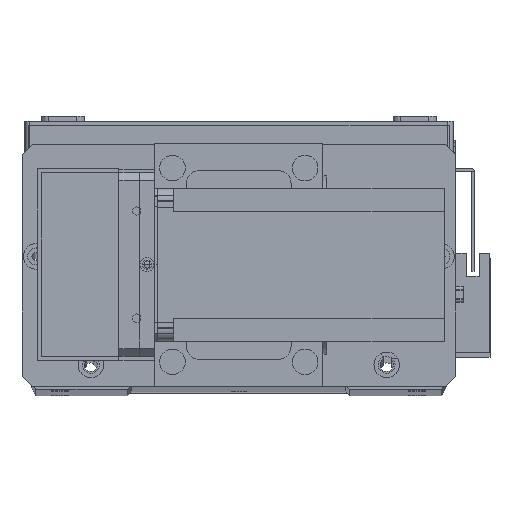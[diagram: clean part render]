
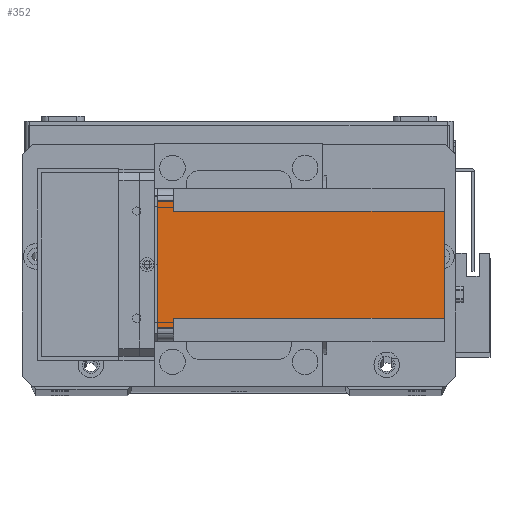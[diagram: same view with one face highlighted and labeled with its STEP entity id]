
A CAD part, top view. The second image highlights one B-rep face of the part: STEP entity #352.
In plain terms, the highlighted planar face has unit normal (0, 0, 1) as drawn and (-1, 0, 0) by its records, which use the part's own axes.
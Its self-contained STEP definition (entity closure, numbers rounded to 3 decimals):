
#3 = ORIENTED_EDGE ( 'NONE', *, *, #9786, .F. ) ;
#352 = ADVANCED_FACE ( 'NONE', ( #5899 ), #12835, .T. ) ;
#423 = VECTOR ( 'NONE', #6225, 1000. ) ;
#557 = ORIENTED_EDGE ( 'NONE', *, *, #19694, .F. ) ;
#696 = LINE ( 'NONE', #7753, #26508 ) ;
#1292 = CARTESIAN_POINT ( 'NONE',  ( 0., 0., -112.5 ) ) ;
#1985 = ORIENTED_EDGE ( 'NONE', *, *, #13897, .T. ) ;
#2157 = VERTEX_POINT ( 'NONE', #12614 ) ;
#2536 = EDGE_CURVE ( 'NONE', #22568, #9418, #6943, .T. ) ;
#3520 = VERTEX_POINT ( 'NONE', #15010 ) ;
#4768 = CARTESIAN_POINT ( 'NONE',  ( 0., 9., -112.5 ) ) ;
#5899 = FACE_OUTER_BOUND ( 'NONE', #17599, .T. ) ;
#6225 = DIRECTION ( 'NONE',  ( 0., -1., 0. ) ) ;
#6307 = LINE ( 'NONE', #29051, #18835 ) ;
#6943 = LINE ( 'NONE', #26818, #14396 ) ;
#7753 = CARTESIAN_POINT ( 'NONE',  ( 0., 55., -112.5 ) ) ;
#8214 = DIRECTION ( 'NONE',  ( 0., 1., 0. ) ) ;
#8484 = LINE ( 'NONE', #29229, #27700 ) ;
#8746 = ORIENTED_EDGE ( 'NONE', *, *, #15550, .T. ) ;
#9418 = VERTEX_POINT ( 'NONE', #19275 ) ;
#9786 = EDGE_CURVE ( 'NONE', #28102, #2157, #27579, .T. ) ;
#10908 = CARTESIAN_POINT ( 'NONE',  ( 0., 9., -112.5 ) ) ;
#11187 = EDGE_CURVE ( 'NONE', #21415, #12535, #18451, .T. ) ;
#11472 = ORIENTED_EDGE ( 'NONE', *, *, #11187, .F. ) ;
#12535 = VERTEX_POINT ( 'NONE', #10908 ) ;
#12614 = CARTESIAN_POINT ( 'NONE',  ( 0., 55., -6.5 ) ) ;
#12719 = DIRECTION ( 'NONE',  ( -1., 0., 0. ) ) ;
#12835 = PLANE ( 'NONE',  #19379 ) ;
#13118 = LINE ( 'NONE', #15152, #25671 ) ;
#13897 = EDGE_CURVE ( 'NONE', #26138, #12535, #26997, .T. ) ;
#14396 = VECTOR ( 'NONE', #19344, 1000. ) ;
#15010 = CARTESIAN_POINT ( 'NONE',  ( 0., 55., 0. ) ) ;
#15152 = CARTESIAN_POINT ( 'NONE',  ( 0., 51., -112.5 ) ) ;
#15265 = EDGE_CURVE ( 'NONE', #22568, #21415, #8484, .T. ) ;
#15392 = CARTESIAN_POINT ( 'NONE',  ( 0., 51., -112.5 ) ) ;
#15550 = EDGE_CURVE ( 'NONE', #3520, #2157, #696, .T. ) ;
#16749 = DIRECTION ( 'NONE',  ( 0., 1., 0. ) ) ;
#17599 = EDGE_LOOP ( 'NONE', ( #19648, #27395, #557, #8746, #3, #19810, #1985, #11472 ) ) ;
#18451 = LINE ( 'NONE', #4768, #30219 ) ;
#18835 = VECTOR ( 'NONE', #21683, 1000. ) ;
#19275 = CARTESIAN_POINT ( 'NONE',  ( 0., 5., 0. ) ) ;
#19344 = DIRECTION ( 'NONE',  ( 0., 0., 1. ) ) ;
#19379 = AXIS2_PLACEMENT_3D ( 'NONE', #1292, #12719, #22125 ) ;
#19648 = ORIENTED_EDGE ( 'NONE', *, *, #15265, .F. ) ;
#19694 = EDGE_CURVE ( 'NONE', #3520, #9418, #6307, .T. ) ;
#19810 = ORIENTED_EDGE ( 'NONE', *, *, #28313, .F. ) ;
#20142 = DIRECTION ( 'NONE',  ( 0., 0., 1. ) ) ;
#21415 = VERTEX_POINT ( 'NONE', #26344 ) ;
#21683 = DIRECTION ( 'NONE',  ( 0., -1., 0. ) ) ;
#22125 = DIRECTION ( 'NONE',  ( 0., -1., 0. ) ) ;
#22568 = VERTEX_POINT ( 'NONE', #28277 ) ;
#24449 = CARTESIAN_POINT ( 'NONE',  ( 0., 51., -6.5 ) ) ;
#25395 = DIRECTION ( 'NONE',  ( 0., 0., -1. ) ) ;
#25671 = VECTOR ( 'NONE', #20142, 1000. ) ;
#26138 = VERTEX_POINT ( 'NONE', #15392 ) ;
#26282 = CARTESIAN_POINT ( 'NONE',  ( 0., 0., -112.5 ) ) ;
#26344 = CARTESIAN_POINT ( 'NONE',  ( 0., 9., -6.5 ) ) ;
#26508 = VECTOR ( 'NONE', #25395, 1000. ) ;
#26793 = VECTOR ( 'NONE', #8214, 1000. ) ;
#26818 = CARTESIAN_POINT ( 'NONE',  ( 0., 5., -112.5 ) ) ;
#26997 = LINE ( 'NONE', #26282, #423 ) ;
#27318 = DIRECTION ( 'NONE',  ( 0., 0., -1. ) ) ;
#27395 = ORIENTED_EDGE ( 'NONE', *, *, #2536, .T. ) ;
#27579 = LINE ( 'NONE', #28261, #26793 ) ;
#27700 = VECTOR ( 'NONE', #16749, 1000. ) ;
#28102 = VERTEX_POINT ( 'NONE', #24449 ) ;
#28261 = CARTESIAN_POINT ( 'NONE',  ( 0., 60., -6.5 ) ) ;
#28277 = CARTESIAN_POINT ( 'NONE',  ( 0., 5., -6.5 ) ) ;
#28313 = EDGE_CURVE ( 'NONE', #26138, #28102, #13118, .T. ) ;
#29051 = CARTESIAN_POINT ( 'NONE',  ( 0., 0., 0. ) ) ;
#29229 = CARTESIAN_POINT ( 'NONE',  ( 0., 0., -6.5 ) ) ;
#30219 = VECTOR ( 'NONE', #27318, 1000. ) ;
